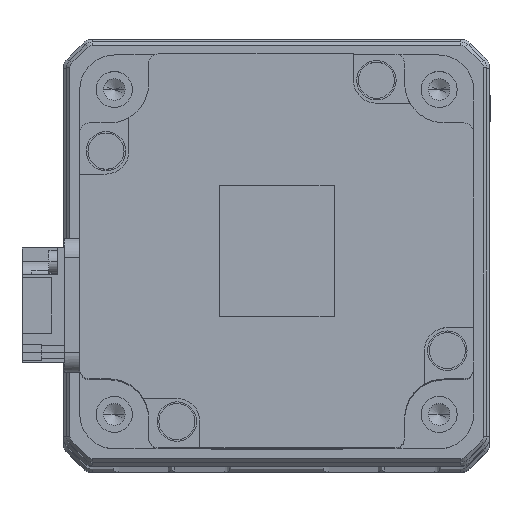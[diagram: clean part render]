
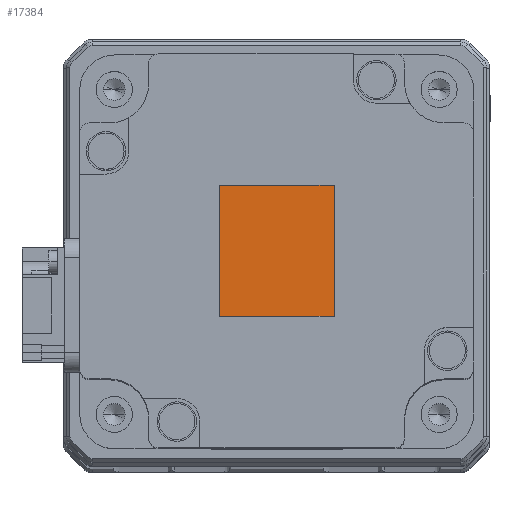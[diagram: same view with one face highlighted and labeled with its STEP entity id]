
A CAD part, top view. The second image highlights one B-rep face of the part: STEP entity #17384.
In plain terms, the highlighted planar face has unit normal (0, 0, 1) as drawn and (0, 0, -1) by its records, which use the part's own axes.
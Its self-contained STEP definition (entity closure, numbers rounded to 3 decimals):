
#2640 = VERTEX_POINT ( 'NONE', #3765 ) ;
#3765 = CARTESIAN_POINT ( 'NONE',  ( -10., -8.75, -98.6 ) ) ;
#4040 = PLANE ( 'NONE',  #30931 ) ;
#5166 = ORIENTED_EDGE ( 'NONE', *, *, #22352, .T. ) ;
#5414 = DIRECTION ( 'NONE',  ( 0., -1., 0. ) ) ;
#6382 = CARTESIAN_POINT ( 'NONE',  ( -10., 8.75, -98.6 ) ) ;
#6623 = CARTESIAN_POINT ( 'NONE',  ( 10., -8.75, -98.6 ) ) ;
#6796 = EDGE_CURVE ( 'NONE', #25587, #18139, #8197, .T. ) ;
#8185 = CARTESIAN_POINT ( 'NONE',  ( -10., 8.75, -98.6 ) ) ;
#8197 = LINE ( 'NONE', #19547, #21119 ) ;
#9215 = EDGE_CURVE ( 'NONE', #24073, #2640, #25771, .T. ) ;
#9225 = DIRECTION ( 'NONE',  ( -1., 0., 0. ) ) ;
#10738 = DIRECTION ( 'NONE',  ( 0., 1., 0. ) ) ;
#12833 = CARTESIAN_POINT ( 'NONE',  ( 10., -8.75, -98.6 ) ) ;
#13138 = DIRECTION ( 'NONE',  ( -1., 0., 0. ) ) ;
#14358 = DIRECTION ( 'NONE',  ( 1., 0., 0. ) ) ;
#14457 = EDGE_LOOP ( 'NONE', ( #5166, #28095, #31036, #25472 ) ) ;
#14917 = LINE ( 'NONE', #8185, #20958 ) ;
#17384 = ADVANCED_FACE ( 'NONE', ( #29570 ), #4040, .T. ) ;
#18139 = VERTEX_POINT ( 'NONE', #25036 ) ;
#19547 = CARTESIAN_POINT ( 'NONE',  ( 10., 8.75, -98.6 ) ) ;
#20958 = VECTOR ( 'NONE', #10738, 1000. ) ;
#21119 = VECTOR ( 'NONE', #14358, 1000. ) ;
#21284 = EDGE_CURVE ( 'NONE', #18139, #24073, #27880, .T. ) ;
#22352 = EDGE_CURVE ( 'NONE', #2640, #25587, #14917, .T. ) ;
#24073 = VERTEX_POINT ( 'NONE', #12833 ) ;
#24704 = DIRECTION ( 'NONE',  ( 0., 0., -1. ) ) ;
#25036 = CARTESIAN_POINT ( 'NONE',  ( 10., 8.75, -98.6 ) ) ;
#25472 = ORIENTED_EDGE ( 'NONE', *, *, #9215, .T. ) ;
#25587 = VERTEX_POINT ( 'NONE', #6382 ) ;
#25771 = LINE ( 'NONE', #31259, #26584 ) ;
#26584 = VECTOR ( 'NONE', #13138, 1000. ) ;
#27039 = VECTOR ( 'NONE', #5414, 1000. ) ;
#27880 = LINE ( 'NONE', #31216, #27039 ) ;
#28095 = ORIENTED_EDGE ( 'NONE', *, *, #6796, .T. ) ;
#29570 = FACE_OUTER_BOUND ( 'NONE', #14457, .T. ) ;
#30931 = AXIS2_PLACEMENT_3D ( 'NONE', #6623, #24704, #9225 ) ;
#31036 = ORIENTED_EDGE ( 'NONE', *, *, #21284, .T. ) ;
#31216 = CARTESIAN_POINT ( 'NONE',  ( 10., 8.75, -98.6 ) ) ;
#31259 = CARTESIAN_POINT ( 'NONE',  ( 10., -8.75, -98.6 ) ) ;
